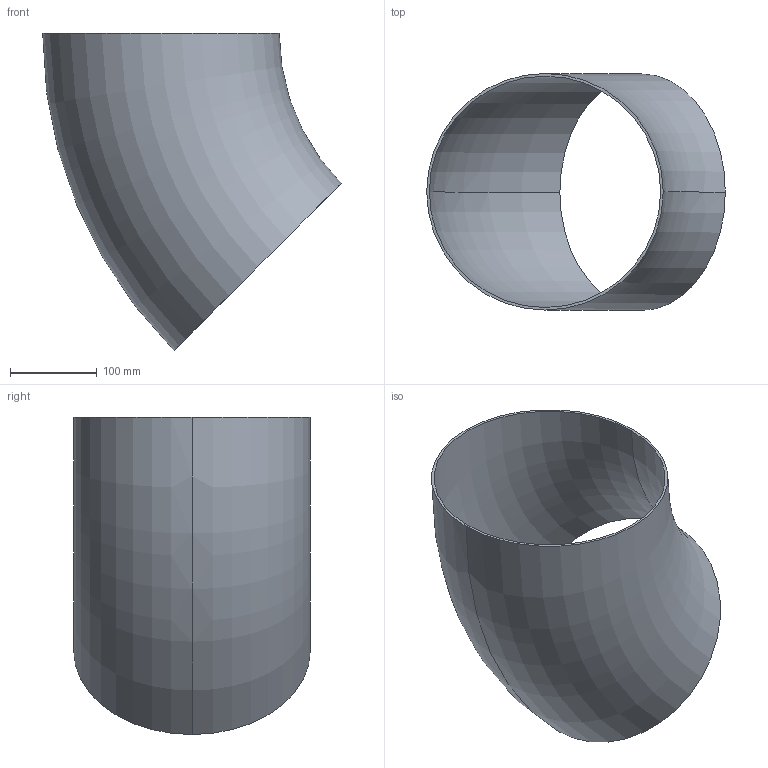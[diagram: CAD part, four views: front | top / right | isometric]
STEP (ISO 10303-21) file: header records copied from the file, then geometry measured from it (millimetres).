
FILE_DESCRIPTION (( 'STEP AP203' ), '1' );
FILE_NAME ('3D_R1650_273x3_17351950.STEP', '2024-08-03T09:21:44', ( '' ), ( '' ), 'SwSTEP 2.0', 'SolidWorks 2024', '' );
FILE_SCHEMA (( 'CONFIG_CONTROL_DESIGN' ));
Length unit declared in the file: millimetre
Products named in the file (1): 3D_R1650_273x3_17351950
Bounding box: 344.61 x 273 x 365.93 mm (x, y, z)
Volume: 761464.7 mm3; surface area: 512732.5 mm2
Topology: 1 solids, 1 shells, 6 faces, 12 edges, 8 vertices
Faces by surface type: torus 4, plane 2
Entity records: 249 total; most frequent: DIRECTION 38, CARTESIAN_POINT 27, ORIENTED_EDGE 24, AXIS2_PLACEMENT_3D 19, EDGE_CURVE 12, CIRCLE 12, PERSON_AND_ORGANIZATION 8, VERTEX_POINT 8
